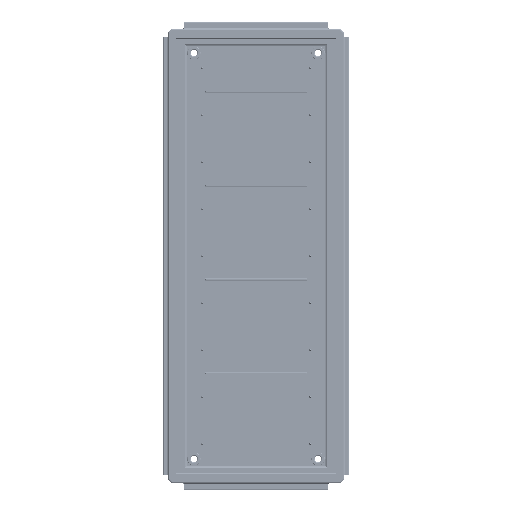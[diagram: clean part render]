
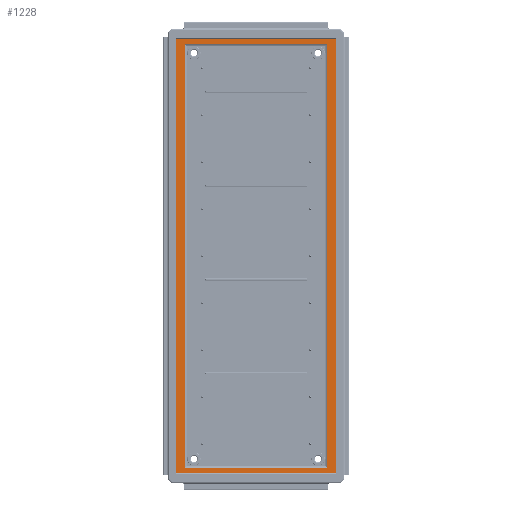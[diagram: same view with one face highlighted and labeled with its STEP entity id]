
A CAD part, front view. The second image highlights one B-rep face of the part: STEP entity #1228.
In plain terms, the highlighted planar face has unit normal (0, -1, 0).
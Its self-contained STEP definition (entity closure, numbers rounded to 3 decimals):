
#1228=ADVANCED_FACE('',(#37645,#37647),#37649,.T.);
#37645=FACE_BOUND('',#37646,.T.);
#37646=EDGE_LOOP('',(#122025,#122026,#122027,#122028));
#37647=FACE_BOUND('',#37648,.T.);
#37648=EDGE_LOOP('',(#122029,#122030,#122031,#122032));
#37649=PLANE('',#37650);
#37650=AXIS2_PLACEMENT_3D('',#37651,#37652,#37653);
#37651=CARTESIAN_POINT('',(-359.9,1.,-20.899));
#37652=DIRECTION('',(0.,-1.,0.));
#37653=DIRECTION('',(0.,0.,-1.));
#122025=ORIENTED_EDGE('',*,*,#171263,.F.);
#122026=ORIENTED_EDGE('',*,*,#171264,.T.);
#122027=ORIENTED_EDGE('',*,*,#171265,.T.);
#122028=ORIENTED_EDGE('',*,*,#171266,.F.);
#122029=ORIENTED_EDGE('',*,*,#171267,.T.);
#122030=ORIENTED_EDGE('',*,*,#171268,.T.);
#122031=ORIENTED_EDGE('',*,*,#171269,.F.);
#122032=ORIENTED_EDGE('',*,*,#171270,.T.);
#171263=EDGE_CURVE('',#196944,#196945,#196946,.T.);
#171264=EDGE_CURVE('',#196944,#196947,#196948,.T.);
#171265=EDGE_CURVE('',#196947,#196949,#196950,.T.);
#171266=EDGE_CURVE('',#196945,#196949,#196951,.T.);
#171267=EDGE_CURVE('',#196952,#196953,#196954,.T.);
#171268=EDGE_CURVE('',#196953,#196955,#196956,.T.);
#171269=EDGE_CURVE('',#196957,#196955,#196958,.T.);
#171270=EDGE_CURVE('',#196957,#196952,#196959,.T.);
#196944=VERTEX_POINT('',#241574);
#196945=VERTEX_POINT('',#241575);
#196946=LINE('',#241576,#241577);
#196947=VERTEX_POINT('',#241579);
#196948=LINE('',#241580,#241581);
#196949=VERTEX_POINT('',#241583);
#196950=LINE('',#241584,#241585);
#196951=LINE('',#241587,#241588);
#196952=VERTEX_POINT('',#241590);
#196953=VERTEX_POINT('',#241591);
#196954=LINE('',#241592,#241593);
#196955=VERTEX_POINT('',#241595);
#196956=LINE('',#241596,#241597);
#196957=VERTEX_POINT('',#241599);
#196958=LINE('',#241600,#241601);
#196959=LINE('',#241603,#241604);
#241574=CARTESIAN_POINT('',(-382.591,1.,-20.899));
#241575=CARTESIAN_POINT('',(-42.409,1.,-20.899));
#241576=CARTESIAN_POINT('',(-382.591,1.,-20.899));
#241577=VECTOR('',#241578,1.);
#241578=DIRECTION('',(1.,0.,0.));
#241579=CARTESIAN_POINT('',(-382.591,1.,-947.101));
#241580=CARTESIAN_POINT('',(-382.591,1.,-20.899));
#241581=VECTOR('',#241582,1.);
#241582=DIRECTION('',(0.,0.,-1.));
#241583=CARTESIAN_POINT('',(-42.409,1.,-947.101));
#241584=CARTESIAN_POINT('',(-382.591,1.,-947.101));
#241585=VECTOR('',#241586,1.);
#241586=DIRECTION('',(1.,0.,0.));
#241587=CARTESIAN_POINT('',(-42.409,1.,-20.899));
#241588=VECTOR('',#241589,1.);
#241589=DIRECTION('',(0.,0.,-1.));
#241590=CARTESIAN_POINT('',(-364.6,1.,-31.9));
#241591=CARTESIAN_POINT('',(-60.4,1.,-31.9));
#241592=CARTESIAN_POINT('',(-364.6,1.,-31.9));
#241593=VECTOR('',#241594,1.);
#241594=DIRECTION('',(1.,0.,0.));
#241595=CARTESIAN_POINT('',(-60.4,1.,-936.1));
#241596=CARTESIAN_POINT('',(-60.4,1.,-31.9));
#241597=VECTOR('',#241598,1.);
#241598=DIRECTION('',(0.,0.,-1.));
#241599=CARTESIAN_POINT('',(-364.6,1.,-936.1));
#241600=CARTESIAN_POINT('',(-364.6,1.,-936.1));
#241601=VECTOR('',#241602,1.);
#241602=DIRECTION('',(1.,0.,0.));
#241603=CARTESIAN_POINT('',(-364.6,1.,-936.1));
#241604=VECTOR('',#241605,1.);
#241605=DIRECTION('',(0.,0.,1.));
